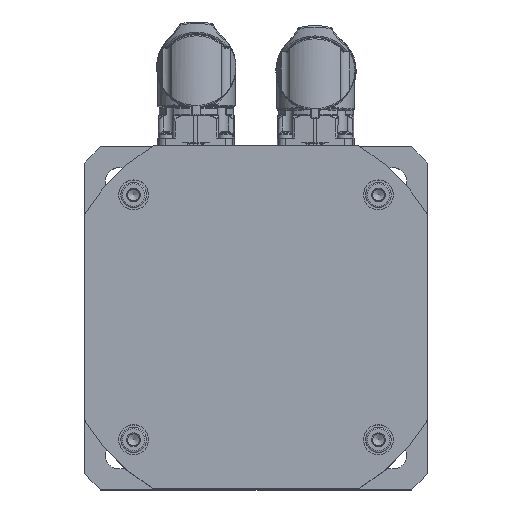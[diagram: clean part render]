
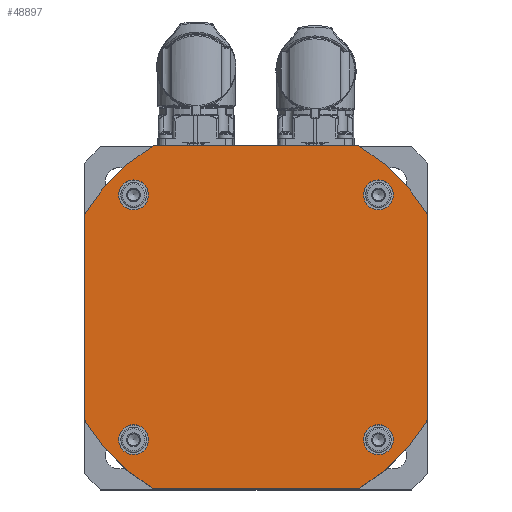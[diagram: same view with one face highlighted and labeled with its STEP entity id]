
A CAD part, top view. The second image highlights one B-rep face of the part: STEP entity #48897.
In plain terms, the highlighted planar face has unit normal (0, 0, 1).
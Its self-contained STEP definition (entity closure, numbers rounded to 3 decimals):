
#7400=FACE_BOUND('',#11566,.T.);
#7401=FACE_BOUND('',#11567,.T.);
#7402=FACE_BOUND('',#11568,.T.);
#7403=FACE_BOUND('',#11569,.T.);
#7404=FACE_BOUND('',#11570,.T.);
#7815=PLANE('',#52114);
#11566=EDGE_LOOP('',(#33661));
#11567=EDGE_LOOP('',(#33662));
#11568=EDGE_LOOP('',(#33663));
#11569=EDGE_LOOP('',(#33664));
#11570=EDGE_LOOP('',(#33665,#33666,#33667,#33668,#33669,#33670,#33671,#33672));
#14995=CIRCLE('',#52083,5.);
#14997=CIRCLE('',#52087,5.);
#14999=CIRCLE('',#52091,5.);
#15001=CIRCLE('',#52095,5.);
#15004=CIRCLE('',#52100,67.);
#15006=CIRCLE('',#52104,67.);
#15008=CIRCLE('',#52108,67.);
#15010=CIRCLE('',#52112,67.);
#17758=LINE('',#70968,#19579);
#17762=LINE('',#70980,#19583);
#17766=LINE('',#70992,#19587);
#17770=LINE('',#71002,#19591);
#19579=VECTOR('',#57903,68.782);
#19583=VECTOR('',#57915,68.782);
#19587=VECTOR('',#57927,68.782);
#19591=VECTOR('',#57939,68.782);
#21450=VERTEX_POINT('',#70932);
#21452=VERTEX_POINT('',#70938);
#21454=VERTEX_POINT('',#70944);
#21456=VERTEX_POINT('',#70950);
#21460=VERTEX_POINT('',#70959);
#21461=VERTEX_POINT('',#70961);
#21463=VERTEX_POINT('',#70967);
#21465=VERTEX_POINT('',#70973);
#21467=VERTEX_POINT('',#70979);
#21469=VERTEX_POINT('',#70985);
#21471=VERTEX_POINT('',#70991);
#21473=VERTEX_POINT('',#70997);
#26098=EDGE_CURVE('',#21450,#21450,#14995,.T.);
#26100=EDGE_CURVE('',#21452,#21452,#14997,.T.);
#26102=EDGE_CURVE('',#21454,#21454,#14999,.T.);
#26104=EDGE_CURVE('',#21456,#21456,#15001,.T.);
#26108=EDGE_CURVE('',#21461,#21460,#15004,.T.);
#26111=EDGE_CURVE('',#21463,#21461,#17758,.T.);
#26114=EDGE_CURVE('',#21465,#21463,#15006,.T.);
#26117=EDGE_CURVE('',#21467,#21465,#17762,.T.);
#26120=EDGE_CURVE('',#21469,#21467,#15008,.T.);
#26123=EDGE_CURVE('',#21471,#21469,#17766,.T.);
#26126=EDGE_CURVE('',#21473,#21471,#15010,.T.);
#26129=EDGE_CURVE('',#21460,#21473,#17770,.T.);
#33661=ORIENTED_EDGE('',*,*,#26098,.T.);
#33662=ORIENTED_EDGE('',*,*,#26100,.T.);
#33663=ORIENTED_EDGE('',*,*,#26102,.T.);
#33664=ORIENTED_EDGE('',*,*,#26104,.T.);
#33665=ORIENTED_EDGE('',*,*,#26129,.T.);
#33666=ORIENTED_EDGE('',*,*,#26126,.T.);
#33667=ORIENTED_EDGE('',*,*,#26123,.T.);
#33668=ORIENTED_EDGE('',*,*,#26120,.T.);
#33669=ORIENTED_EDGE('',*,*,#26117,.T.);
#33670=ORIENTED_EDGE('',*,*,#26114,.T.);
#33671=ORIENTED_EDGE('',*,*,#26111,.T.);
#33672=ORIENTED_EDGE('',*,*,#26108,.T.);
#48897=ADVANCED_FACE('',(#7400,#7401,#7402,#7403,#7404),#7815,.T.);
#52083=AXIS2_PLACEMENT_3D('',#70933,#57862,#57863);
#52087=AXIS2_PLACEMENT_3D('',#70939,#57870,#57871);
#52091=AXIS2_PLACEMENT_3D('',#70945,#57878,#57879);
#52095=AXIS2_PLACEMENT_3D('',#70951,#57886,#57887);
#52100=AXIS2_PLACEMENT_3D('',#70962,#57897,#57898);
#52104=AXIS2_PLACEMENT_3D('',#70974,#57909,#57910);
#52108=AXIS2_PLACEMENT_3D('',#70986,#57921,#57922);
#52112=AXIS2_PLACEMENT_3D('',#70998,#57933,#57934);
#52114=AXIS2_PLACEMENT_3D('',#71003,#57940,#57941);
#57862=DIRECTION('center_axis',(0.,0.,-1.));
#57863=DIRECTION('ref_axis',(0.,-1.,0.));
#57870=DIRECTION('center_axis',(0.,0.,-1.));
#57871=DIRECTION('ref_axis',(-1.,0.,0.));
#57878=DIRECTION('center_axis',(0.,0.,-1.));
#57879=DIRECTION('ref_axis',(0.,1.,0.));
#57886=DIRECTION('center_axis',(0.,0.,-1.));
#57887=DIRECTION('ref_axis',(1.,0.,0.));
#57897=DIRECTION('center_axis',(0.,0.,1.));
#57898=DIRECTION('ref_axis',(0.858,0.513,0.));
#57903=DIRECTION('',(0.,1.,0.));
#57909=DIRECTION('center_axis',(0.,0.,1.));
#57910=DIRECTION('ref_axis',(0.513,-0.858,0.));
#57915=DIRECTION('',(1.,0.,0.));
#57921=DIRECTION('center_axis',(0.,0.,1.));
#57922=DIRECTION('ref_axis',(-0.858,-0.513,0.));
#57927=DIRECTION('',(0.,-1.,0.));
#57933=DIRECTION('center_axis',(0.,0.,1.));
#57934=DIRECTION('ref_axis',(-0.513,0.858,0.));
#57939=DIRECTION('',(-1.,0.,0.));
#57940=DIRECTION('center_axis',(0.,0.,1.));
#57941=DIRECTION('ref_axis',(1.,0.,0.));
#70932=CARTESIAN_POINT('',(41.012,-46.012,209.5));
#70933=CARTESIAN_POINT('Origin',(41.012,-41.012,209.5));
#70938=CARTESIAN_POINT('',(-46.012,-41.012,209.5));
#70939=CARTESIAN_POINT('Origin',(-41.012,-41.012,209.5));
#70944=CARTESIAN_POINT('',(-41.012,46.012,209.5));
#70945=CARTESIAN_POINT('Origin',(-41.012,41.012,209.5));
#70950=CARTESIAN_POINT('',(46.012,41.012,209.5));
#70951=CARTESIAN_POINT('Origin',(41.012,41.012,209.5));
#70959=CARTESIAN_POINT('',(34.391,57.5,209.5));
#70961=CARTESIAN_POINT('',(57.5,34.391,209.5));
#70962=CARTESIAN_POINT('Origin',(0.,0.,209.5));
#70967=CARTESIAN_POINT('',(57.5,-34.391,209.5));
#70968=CARTESIAN_POINT('',(57.5,-57.5,209.5));
#70973=CARTESIAN_POINT('',(34.391,-57.5,209.5));
#70974=CARTESIAN_POINT('Origin',(0.,0.,209.5));
#70979=CARTESIAN_POINT('',(-34.391,-57.5,209.5));
#70980=CARTESIAN_POINT('',(-57.5,-57.5,209.5));
#70985=CARTESIAN_POINT('',(-57.5,-34.391,209.5));
#70986=CARTESIAN_POINT('Origin',(0.,0.,209.5));
#70991=CARTESIAN_POINT('',(-57.5,34.391,209.5));
#70992=CARTESIAN_POINT('',(-57.5,57.5,209.5));
#70997=CARTESIAN_POINT('',(-34.391,57.5,209.5));
#70998=CARTESIAN_POINT('Origin',(0.,0.,209.5));
#71002=CARTESIAN_POINT('',(57.5,57.5,209.5));
#71003=CARTESIAN_POINT('Origin',(0.,0.,
209.5));
